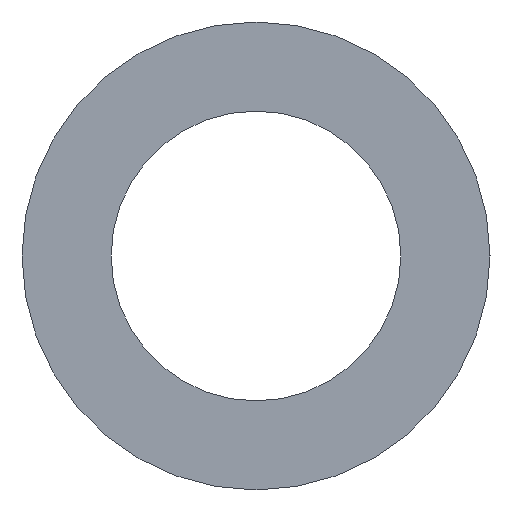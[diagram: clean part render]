
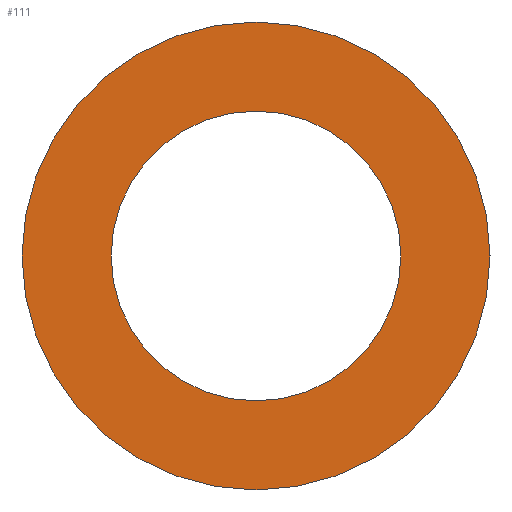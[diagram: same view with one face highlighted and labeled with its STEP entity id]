
A CAD part, left-side view. The second image highlights one B-rep face of the part: STEP entity #111.
In plain terms, the highlighted planar face has unit normal (-1, 0, 0).
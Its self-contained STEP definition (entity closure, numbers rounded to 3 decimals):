
#3 = CARTESIAN_POINT ( 'NONE',  ( 0., 0., 0. ) ) ;
#5 = EDGE_LOOP ( 'NONE', ( #152, #18 ) ) ;
#6 = AXIS2_PLACEMENT_3D ( 'NONE', #119, #81, #78 ) ;
#10 = CARTESIAN_POINT ( 'NONE',  ( 0., 0., 0. ) ) ;
#11 = FACE_OUTER_BOUND ( 'NONE', #5, .T. ) ;
#14 = EDGE_CURVE ( 'NONE', #84, #102, #158, .T. ) ;
#17 = AXIS2_PLACEMENT_3D ( 'NONE', #10, #172, #208 ) ;
#18 = ORIENTED_EDGE ( 'NONE', *, *, #14, .F. ) ;
#21 = EDGE_CURVE ( 'NONE', #86, #85, #133, .T. ) ;
#23 = CIRCLE ( 'NONE', #174, 3.25 ) ;
#24 = ORIENTED_EDGE ( 'NONE', *, *, #21, .T. ) ;
#26 = AXIS2_PLACEMENT_3D ( 'NONE', #193, #66, #175 ) ;
#28 = FACE_BOUND ( 'NONE', #139, .T. ) ;
#35 = CARTESIAN_POINT ( 'NONE',  ( 0., 0., 0. ) ) ;
#47 = CARTESIAN_POINT ( 'NONE',  ( 0., 0., -3.25 ) ) ;
#66 = DIRECTION ( 'NONE',  ( 1., 0., 0. ) ) ;
#72 = DIRECTION ( 'NONE',  ( 1., 0., 0. ) ) ;
#78 = DIRECTION ( 'NONE',  ( 0., 0., -1. ) ) ;
#81 = DIRECTION ( 'NONE',  ( 1., 0., 0. ) ) ;
#84 = VERTEX_POINT ( 'NONE', #177 ) ;
#85 = VERTEX_POINT ( 'NONE', #108 ) ;
#86 = VERTEX_POINT ( 'NONE', #47 ) ;
#102 = VERTEX_POINT ( 'NONE', #145 ) ;
#108 = CARTESIAN_POINT ( 'NONE',  ( 0., 0., 3.25 ) ) ;
#111 = ADVANCED_FACE ( 'NONE', ( #11, #28 ), #156, .F. ) ;
#119 = CARTESIAN_POINT ( 'NONE',  ( 0., 0., 0. ) ) ;
#133 = CIRCLE ( 'NONE', #6, 3.25 ) ;
#135 = CIRCLE ( 'NONE', #137, 5.25 ) ;
#136 = DIRECTION ( 'NONE',  ( 0., 0., -1. ) ) ;
#137 = AXIS2_PLACEMENT_3D ( 'NONE', #3, #72, #136 ) ;
#139 = EDGE_LOOP ( 'NONE', ( #205, #24 ) ) ;
#145 = CARTESIAN_POINT ( 'NONE',  ( 0., 0., 5.25 ) ) ;
#152 = ORIENTED_EDGE ( 'NONE', *, *, #188, .F. ) ;
#156 = PLANE ( 'NONE',  #26 ) ;
#158 = CIRCLE ( 'NONE', #17, 5.25 ) ;
#161 = EDGE_CURVE ( 'NONE', #85, #86, #23, .T. ) ;
#172 = DIRECTION ( 'NONE',  ( 1., 0., 0. ) ) ;
#174 = AXIS2_PLACEMENT_3D ( 'NONE', #35, #182, #196 ) ;
#175 = DIRECTION ( 'NONE',  ( 0., 0., -1. ) ) ;
#177 = CARTESIAN_POINT ( 'NONE',  ( 0., 0., -5.25 ) ) ;
#182 = DIRECTION ( 'NONE',  ( 1., 0., 0. ) ) ;
#188 = EDGE_CURVE ( 'NONE', #102, #84, #135, .T. ) ;
#193 = CARTESIAN_POINT ( 'NONE',  ( 0., 0., 0. ) ) ;
#196 = DIRECTION ( 'NONE',  ( 0., 0., -1. ) ) ;
#205 = ORIENTED_EDGE ( 'NONE', *, *, #161, .T. ) ;
#208 = DIRECTION ( 'NONE',  ( 0., 0., -1. ) ) ;
